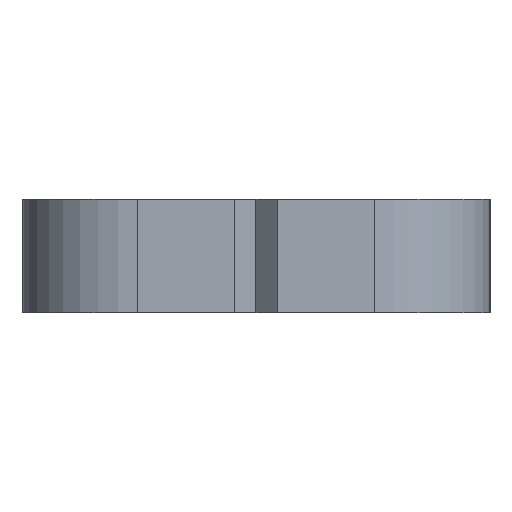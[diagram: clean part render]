
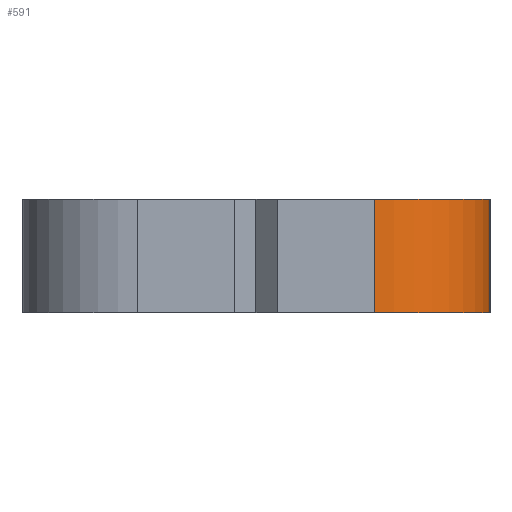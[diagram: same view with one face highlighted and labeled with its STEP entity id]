
A CAD part, left-side view. The second image highlights one B-rep face of the part: STEP entity #591.
In plain terms, the highlighted cylindrical face has radius 6.2 mm (diameter 12.4 mm), a partial arc.
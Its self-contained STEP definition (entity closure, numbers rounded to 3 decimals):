
#591 = ADVANCED_FACE ( 'NONE', ( #7783 ), #33698, .T. ) ;
#863 = CARTESIAN_POINT ( 'NONE',  ( -57.15, -6.35, 3.05 ) ) ;
#1056 = ORIENTED_EDGE ( 'NONE', *, *, #34632, .T. ) ;
#2472 = DIRECTION ( 'NONE',  ( 0., 0., -1. ) ) ;
#3106 = EDGE_LOOP ( 'NONE', ( #15455, #1056, #30843, #4765 ) ) ;
#3798 = AXIS2_PLACEMENT_3D ( 'NONE', #25291, #6996, #18868 ) ;
#4765 = ORIENTED_EDGE ( 'NONE', *, *, #19765, .F. ) ;
#6100 = AXIS2_PLACEMENT_3D ( 'NONE', #863, #32848, #18396 ) ;
#6996 = DIRECTION ( 'NONE',  ( 0., 0., -1. ) ) ;
#7589 = CARTESIAN_POINT ( 'NONE',  ( -57.15, -12.55, 1. ) ) ;
#7783 = FACE_OUTER_BOUND ( 'NONE', #3106, .T. ) ;
#7972 = DIRECTION ( 'NONE',  ( 0., 0., -1. ) ) ;
#8569 = CARTESIAN_POINT ( 'NONE',  ( -63.35, -6.35, -3.05 ) ) ;
#8659 = DIRECTION ( 'NONE',  ( 1., 0., 0. ) ) ;
#9231 = VECTOR ( 'NONE', #7972, 1000. ) ;
#9962 = EDGE_CURVE ( 'NONE', #31348, #18960, #22583, .T. ) ;
#10473 = CARTESIAN_POINT ( 'NONE',  ( -63.35, -6.35, 3.05 ) ) ;
#12440 = CIRCLE ( 'NONE', #25515, 6.2 ) ;
#15455 = ORIENTED_EDGE ( 'NONE', *, *, #34111, .T. ) ;
#16337 = VERTEX_POINT ( 'NONE', #8569 ) ;
#16596 = VERTEX_POINT ( 'NONE', #10473 ) ;
#18396 = DIRECTION ( 'NONE',  ( 1., 0., 0. ) ) ;
#18868 = DIRECTION ( 'NONE',  ( -1., 0., 0. ) ) ;
#18960 = VERTEX_POINT ( 'NONE', #24338 ) ;
#19765 = EDGE_CURVE ( 'NONE', #16596, #31348, #37870, .T. ) ;
#20580 = LINE ( 'NONE', #34835, #33651 ) ;
#22583 = LINE ( 'NONE', #7589, #9231 ) ;
#24338 = CARTESIAN_POINT ( 'NONE',  ( -57.15, -12.55, -3.05 ) ) ;
#25291 = CARTESIAN_POINT ( 'NONE',  ( -57.15, -6.35, 1. ) ) ;
#25515 = AXIS2_PLACEMENT_3D ( 'NONE', #32452, #33000, #8659 ) ;
#30843 = ORIENTED_EDGE ( 'NONE', *, *, #9962, .F. ) ;
#31348 = VERTEX_POINT ( 'NONE', #34114 ) ;
#32452 = CARTESIAN_POINT ( 'NONE',  ( -57.15, -6.35, -3.05 ) ) ;
#32848 = DIRECTION ( 'NONE',  ( 0., 0., 1. ) ) ;
#33000 = DIRECTION ( 'NONE',  ( 0., 0., 1. ) ) ;
#33651 = VECTOR ( 'NONE', #2472, 1000. ) ;
#33698 = CYLINDRICAL_SURFACE ( 'NONE', #3798, 6.2 ) ;
#34111 = EDGE_CURVE ( 'NONE', #16596, #16337, #20580, .T. ) ;
#34114 = CARTESIAN_POINT ( 'NONE',  ( -57.15, -12.55, 3.05 ) ) ;
#34632 = EDGE_CURVE ( 'NONE', #16337, #18960, #12440, .T. ) ;
#34835 = CARTESIAN_POINT ( 'NONE',  ( -63.35, -6.35, 1. ) ) ;
#37870 = CIRCLE ( 'NONE', #6100, 6.2 ) ;
